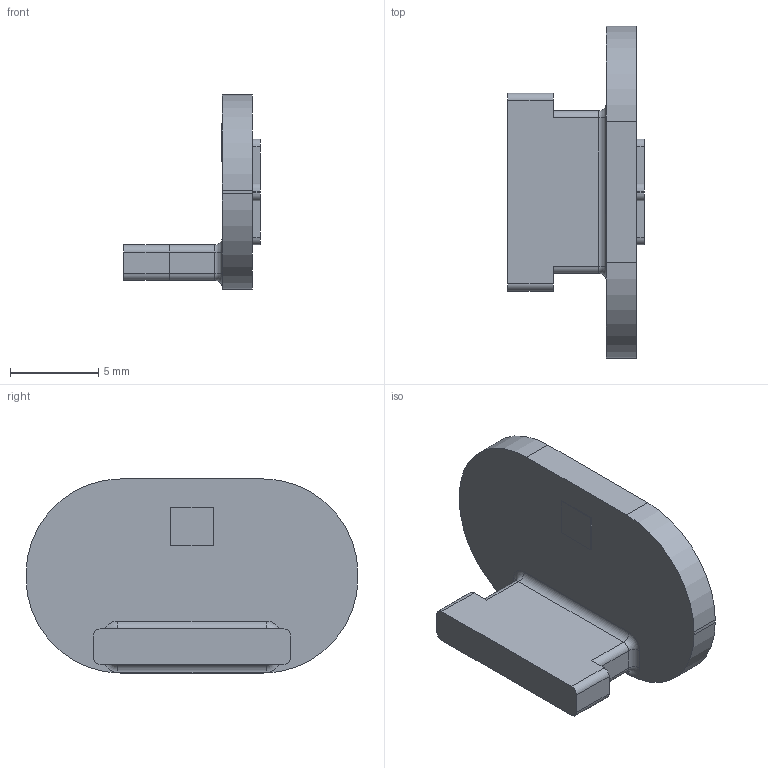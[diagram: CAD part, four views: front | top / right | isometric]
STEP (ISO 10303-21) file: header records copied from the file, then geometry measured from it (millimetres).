
FILE_DESCRIPTION(('Open CASCADE Model'),'2;1');
FILE_NAME('Open CASCADE Shape Model','2026-09-16T15:34:22',('Author'),( 'Open CASCADE'),'Open CASCADE STEP processor 7.7','Open CASCADE 7.7' ,'Unknown');
FILE_SCHEMA(('AUTOMOTIVE_DESIGN { 1 0 10303 214 1 1 1 1 }'));
Length unit declared in the file: millimetre
Products named in the file (1): SOLID
Bounding box: 7.75 x 18.8 x 11 mm (x, y, z)
Volume: 427.7 mm3; surface area: 595.6 mm2
Topology: 1 solids, 1 shells, 65 faces, 172 edges, 112 vertices
Faces by surface type: plane 35, cylinder 26, torus 4
Entity records: 4324 total; most frequent: CARTESIAN_POINT 868, DIRECTION 660, LINE 398, VECTOR 398, ORIENTED_EDGE 344, PCURVE 344, DEFINITIONAL_REPRESENTATION 344, EDGE_CURVE 172
